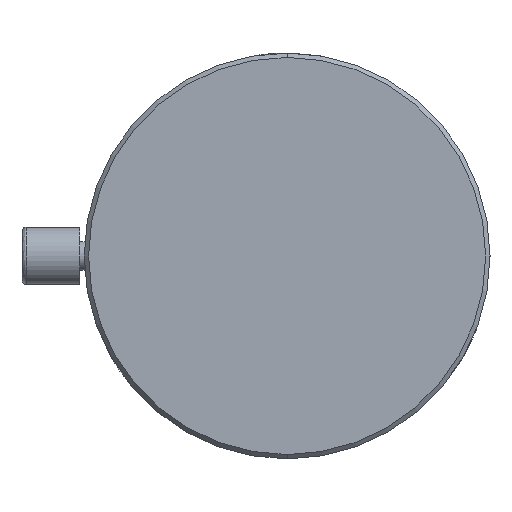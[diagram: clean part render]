
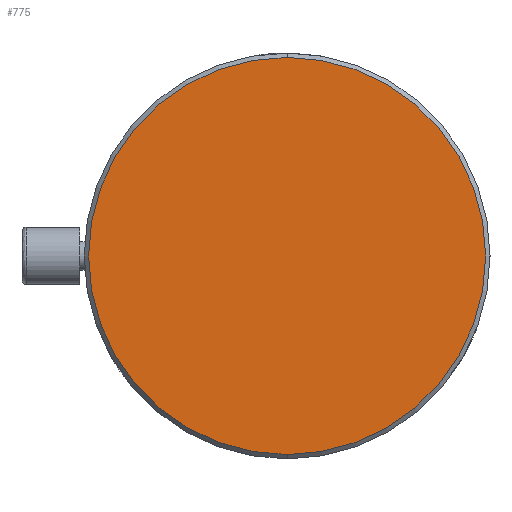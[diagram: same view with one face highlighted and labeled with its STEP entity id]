
A CAD part, left-side view. The second image highlights one B-rep face of the part: STEP entity #775.
In plain terms, the highlighted planar face has unit normal (-1, 0, 0).
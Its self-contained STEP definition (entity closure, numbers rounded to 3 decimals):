
#218 = VERTEX_POINT ( 'NONE', #1942 ) ;
#257 = CIRCLE ( 'NONE', #2047, 13.7 ) ;
#327 = DIRECTION ( 'NONE',  ( 0., 0., -1. ) ) ;
#416 = DIRECTION ( 'NONE',  ( 0., 0., -1. ) ) ;
#508 = VERTEX_POINT ( 'NONE', #1767 ) ;
#775 = ADVANCED_FACE ( 'NONE', ( #2496 ), #825, .F. ) ;
#825 = PLANE ( 'NONE',  #2122 ) ;
#1041 = EDGE_CURVE ( 'NONE', #218, #508, #1978, .T. ) ;
#1071 = AXIS2_PLACEMENT_3D ( 'NONE', #2860, #1089, #416 ) ;
#1089 = DIRECTION ( 'NONE',  ( -1., 0., 0. ) ) ;
#1546 = DIRECTION ( 'NONE',  ( 1., 0., 0. ) ) ;
#1697 = ORIENTED_EDGE ( 'NONE', *, *, #1041, .T. ) ;
#1767 = CARTESIAN_POINT ( 'NONE',  ( -151.4, 0., 13.7 ) ) ;
#1900 = DIRECTION ( 'NONE',  ( 0., 0., -1. ) ) ;
#1942 = CARTESIAN_POINT ( 'NONE',  ( -151.4, 0., -13.7 ) ) ;
#1978 = CIRCLE ( 'NONE', #1071, 13.7 ) ;
#2047 = AXIS2_PLACEMENT_3D ( 'NONE', #3929, #2519, #327 ) ;
#2122 = AXIS2_PLACEMENT_3D ( 'NONE', #3356, #1546, #1900 ) ;
#2496 = FACE_OUTER_BOUND ( 'NONE', #3496, .T. ) ;
#2519 = DIRECTION ( 'NONE',  ( -1., 0., 0. ) ) ;
#2860 = CARTESIAN_POINT ( 'NONE',  ( -151.4, 0., 0. ) ) ;
#3356 = CARTESIAN_POINT ( 'NONE',  ( -151.4, -13.864, 13.864 ) ) ;
#3496 = EDGE_LOOP ( 'NONE', ( #1697, #4680 ) ) ;
#3929 = CARTESIAN_POINT ( 'NONE',  ( -151.4, 0., 0. ) ) ;
#4556 = EDGE_CURVE ( 'NONE', #508, #218, #257, .T. ) ;
#4680 = ORIENTED_EDGE ( 'NONE', *, *, #4556, .T. ) ;
